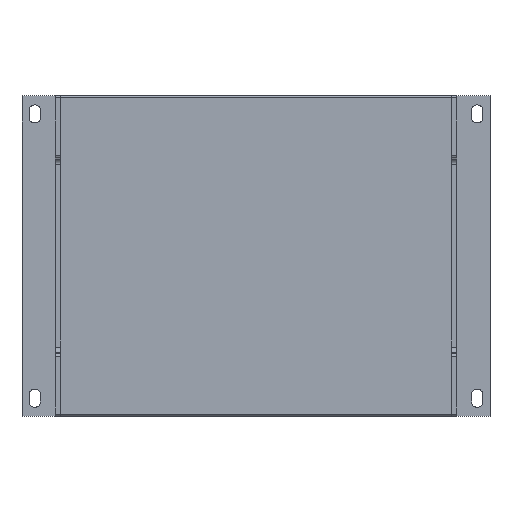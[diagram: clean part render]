
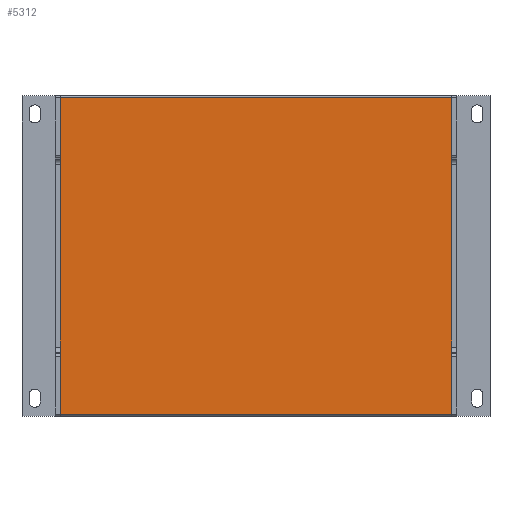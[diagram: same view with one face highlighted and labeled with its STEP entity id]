
A CAD part, top view. The second image highlights one B-rep face of the part: STEP entity #5312.
In plain terms, the highlighted planar face has unit normal (0, 0, 1).
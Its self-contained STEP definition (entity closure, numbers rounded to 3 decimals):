
#200=PLANE('',#5832);
#450=FACE_OUTER_BOUND('',#757,.T.);
#757=EDGE_LOOP('',(#4701,#4702,#4703,#4704));
#1160=LINE('',#8438,#1732);
#1242=LINE('',#8642,#1814);
#1326=LINE('',#8845,#1898);
#1327=LINE('',#8846,#1899);
#1732=VECTOR('',#6832,10.);
#1814=VECTOR('',#7036,10.);
#1898=VECTOR('',#7208,10.);
#1899=VECTOR('',#7209,10.);
#2540=VERTEX_POINT('',#8435);
#2541=VERTEX_POINT('',#8437);
#2601=VERTEX_POINT('',#8639);
#2602=VERTEX_POINT('',#8641);
#3179=EDGE_CURVE('',#2540,#2541,#1160,.T.);
#3282=EDGE_CURVE('',#2602,#2601,#1242,.T.);
#3386=EDGE_CURVE('',#2541,#2601,#1326,.T.);
#3387=EDGE_CURVE('',#2602,#2540,#1327,.T.);
#4701=ORIENTED_EDGE('',*,*,#3282,.T.);
#4702=ORIENTED_EDGE('',*,*,#3386,.F.);
#4703=ORIENTED_EDGE('',*,*,#3179,.F.);
#4704=ORIENTED_EDGE('',*,*,#3387,.F.);
#5312=ADVANCED_FACE('',(#450),#200,.T.);
#5832=AXIS2_PLACEMENT_3D('',#8844,#7206,#7207);
#6832=DIRECTION('',(0.,-1.,0.));
#7036=DIRECTION('',(0.,-1.,0.));
#7206=DIRECTION('center_axis',(0.,0.,
1.));
#7207=DIRECTION('ref_axis',(0.,-1.,0.));
#7208=DIRECTION('',(-1.,0.,0.));
#7209=DIRECTION('',(1.,0.,0.));
#8435=CARTESIAN_POINT('',(187.7,75.487,40.113));
#8437=CARTESIAN_POINT('',(187.7,-48.013,40.113));
#8438=CARTESIAN_POINT('',(187.7,75.487,40.113));
#8639=CARTESIAN_POINT('',(35.,-48.013,40.113));
#8641=CARTESIAN_POINT('',(35.,75.487,40.113));
#8642=CARTESIAN_POINT('',(35.,75.487,40.113));
#8844=CARTESIAN_POINT('Origin',(35.,75.487,40.113));
#8845=CARTESIAN_POINT('',(-1.,-48.013,40.113));
#8846=CARTESIAN_POINT('',(-1.,75.487,40.113));
